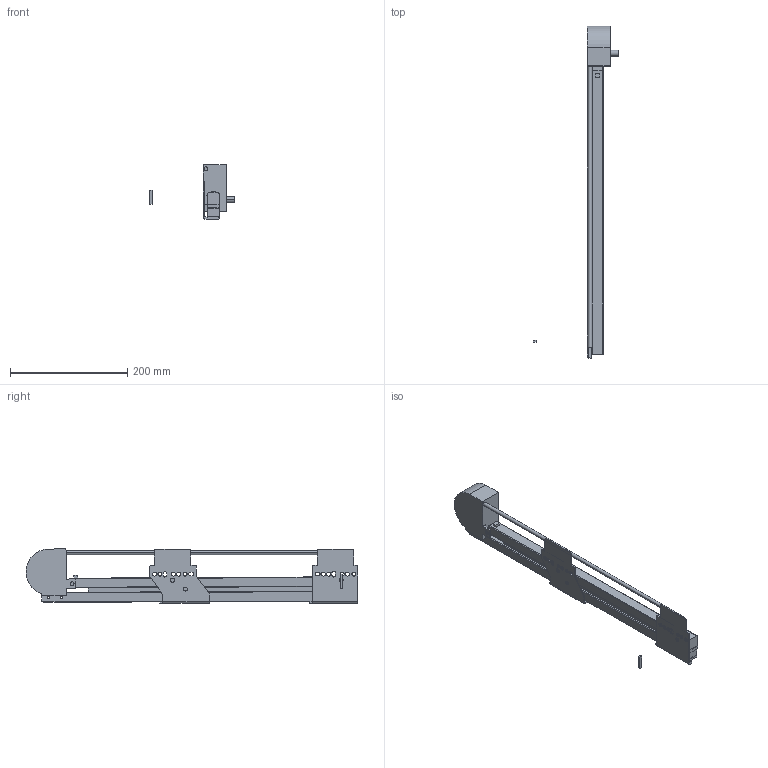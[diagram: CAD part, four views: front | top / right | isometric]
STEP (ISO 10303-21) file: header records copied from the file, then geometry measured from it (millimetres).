
FILE_DESCRIPTION (( 'STEP AP214' ), '1' );
FILE_NAME ('_IMOS_NOVA-Pro_Sensotronic_KS_P907_LI_NL-500_EB29mm.step', '2010-07-23T08:20:08', ( 'grass' ), ( '' ), 'SwSTEP 2.0', 'SolidWorks 2009', '' );
FILE_SCHEMA (( 'AUTOMOTIVE_DESIGN' ));
Length unit declared in the file: millimetre
Products named in the file (1): _IMOS_NOVA-Pro_Sensotronic_KS_P907_LI_NL-500_EB29mm
Bounding box: 145.8 x 566.51 x 92.42 mm (x, y, z)
Volume: 567320.5 mm3; surface area: 137527.4 mm2
Topology: 3 solids, 3 shells, 160 faces, 452 edges, 300 vertices
Faces by surface type: plane 96, cylinder 64
Entity records: 5323 total; most frequent: CARTESIAN_POINT 937, ORIENTED_EDGE 904, DIRECTION 893, EDGE_CURVE 452, LINE 317, VECTOR 317, VERTEX_POINT 300, AXIS2_PLACEMENT_3D 288
